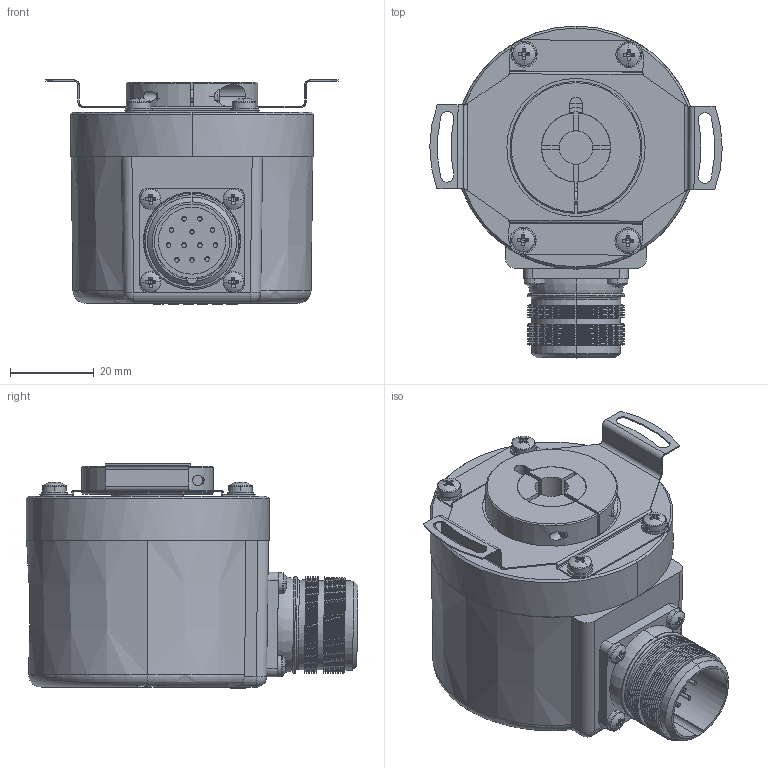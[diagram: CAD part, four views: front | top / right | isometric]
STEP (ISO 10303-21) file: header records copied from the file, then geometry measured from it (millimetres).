
FILE_DESCRIPTION (( 'STEP AP203' ), '1' );
FILE_NAME ('E58HM-SSI-333##.STEP', '2024-11-20T09:07:01', ( '' ), ( '' ), 'SwSTEP 2.0', 'SolidWorks 2023', '' );
FILE_SCHEMA (( 'CONFIG_CONTROL_DESIGN' ));
Length unit declared in the file: millimetre
Products named in the file (1): E58HM-SSI-333##
Bounding box: 69.8 x 79.21 x 53.5 mm (x, y, z)
Volume: 128136.5 mm3; surface area: 27652.4 mm2
Topology: 13 solids, 20 shells, 1032 faces, 2473 edges, 1494 vertices
Faces by surface type: plane 476, cylinder 260, cone 198, torus 61, sphere 22, bspline 15
Entity records: 30660 total; most frequent: CARTESIAN_POINT 6652, DIRECTION 5249, ORIENTED_EDGE 4874, EDGE_CURVE 2437, AXIS2_PLACEMENT_3D 2084, VERTEX_POINT 1494, EDGE_LOOP 1127, VECTOR 1081
